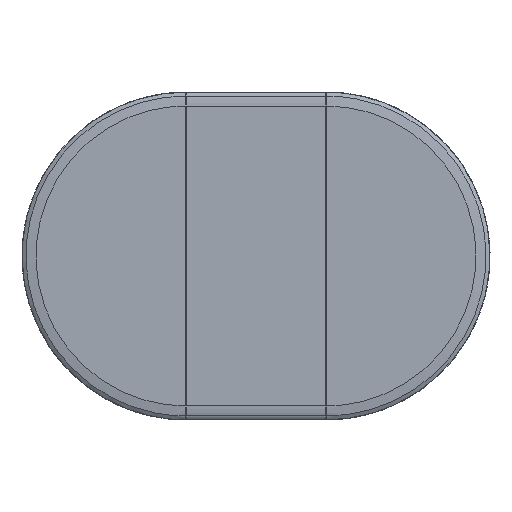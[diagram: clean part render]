
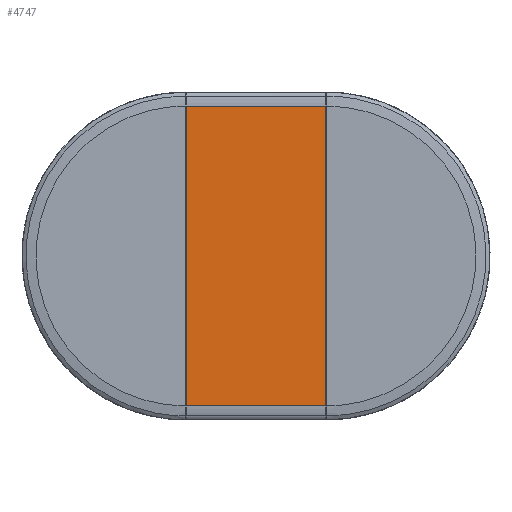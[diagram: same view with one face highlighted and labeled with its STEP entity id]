
A CAD part, top view. The second image highlights one B-rep face of the part: STEP entity #4747.
In plain terms, the highlighted planar face has unit normal (0, 0, 1).
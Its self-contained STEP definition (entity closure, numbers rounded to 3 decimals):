
#4747=ADVANCED_FACE('',(#6475),#28326,.T.);
#6475=FACE_OUTER_BOUND('',#8395,.T.);
#8395=EDGE_LOOP('',(#16572,#16573,#16574,#16575));
#16572=ORIENTED_EDGE('',*,*,#21307,.F.);
#16573=ORIENTED_EDGE('',*,*,#21308,.F.);
#16574=ORIENTED_EDGE('',*,*,#21305,.F.);
#16575=ORIENTED_EDGE('',*,*,#21261,.F.);
#21261=EDGE_CURVE('',#27501,#27502,#24625,.T.);
#21305=EDGE_CURVE('',#27502,#27529,#24645,.T.);
#21307=EDGE_CURVE('',#27530,#27501,#24646,.T.);
#21308=EDGE_CURVE('',#27529,#27530,#24647,.T.);
#24625=B_SPLINE_CURVE_WITH_KNOTS('',1,(#98555,#98556),.UNSPECIFIED.,.F.,
 .F.,(2,2),(0.,1070.),.UNSPECIFIED.);
#24645=B_SPLINE_CURVE_WITH_KNOTS('',1,(#98667,#98668),.UNSPECIFIED.,.F.,
 .F.,(2,2),(0.,496.),.UNSPECIFIED.);
#24646=B_SPLINE_CURVE_WITH_KNOTS('',1,(#98672,#98673),.UNSPECIFIED.,.F.,
 .F.,(2,2),(-496.,0.),.UNSPECIFIED.);
#24647=B_SPLINE_CURVE_WITH_KNOTS('',1,(#98674,#98675),.UNSPECIFIED.,.F.,
 .F.,(2,2),(-1070.,0.),.UNSPECIFIED.);
#27501=VERTEX_POINT('',#98506);
#27502=VERTEX_POINT('',#98507);
#27529=VERTEX_POINT('',#98534);
#27530=VERTEX_POINT('',#98535);
#28326=PLANE('',#29006);
#29006=AXIS2_PLACEMENT_3D('',#98229,#29670,$);
#29670=DIRECTION('',(0.,0.,1.));
#98229=CARTESIAN_POINT('',(20464.404,1492.586,732.181));
#98506=CARTESIAN_POINT('',(20414.684,1385.466,732.181));
#98507=CARTESIAN_POINT('',(20414.684,315.466,732.181));
#98534=CARTESIAN_POINT('',(19918.684,315.466,732.181));
#98535=CARTESIAN_POINT('',(19918.684,1385.466,732.181));
#98555=CARTESIAN_POINT('',(20414.684,1385.466,732.181));
#98556=CARTESIAN_POINT('',(20414.684,315.466,732.181));
#98667=CARTESIAN_POINT('',(20414.684,315.466,732.181));
#98668=CARTESIAN_POINT('',(19918.684,315.466,732.181));
#98672=CARTESIAN_POINT('',(19918.684,1385.466,732.181));
#98673=CARTESIAN_POINT('',(20414.684,1385.466,732.181));
#98674=CARTESIAN_POINT('',(19918.684,315.466,732.181));
#98675=CARTESIAN_POINT('',(19918.684,1385.466,732.181));
